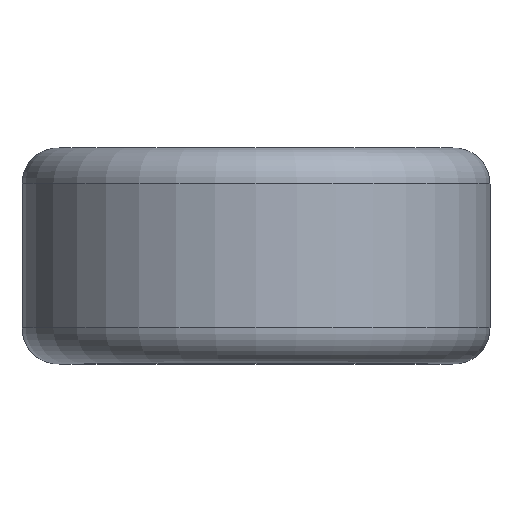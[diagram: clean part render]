
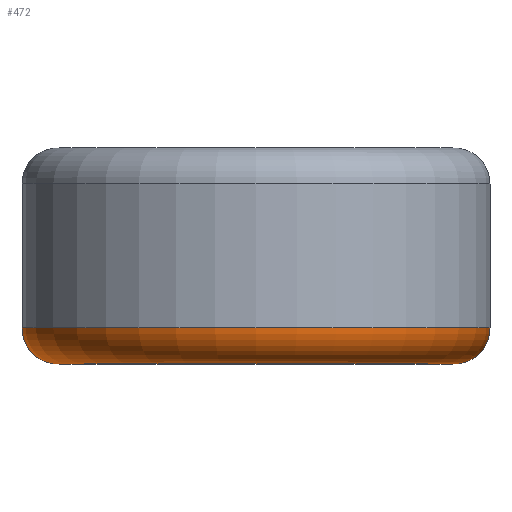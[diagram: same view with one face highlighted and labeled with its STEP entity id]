
A CAD part, top view. The second image highlights one B-rep face of the part: STEP entity #472.
In plain terms, the highlighted toroidal (fillet/blend) face has major radius 5.5 mm and minor radius 1 mm.
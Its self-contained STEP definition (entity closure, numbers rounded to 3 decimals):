
#81=FACE_OUTER_BOUND('',#112,.T.);
#112=EDGE_LOOP('',(#401,#402,#403,#404,#405,#406,#407));
#137=CIRCLE('',#527,6.5);
#138=CIRCLE('',#528,6.5);
#139=CIRCLE('',#529,6.5);
#146=CIRCLE('',#538,5.5);
#147=CIRCLE('',#539,1.);
#148=CIRCLE('',#540,5.5);
#210=VERTEX_POINT('',#1533);
#211=VERTEX_POINT('',#1534);
#212=VERTEX_POINT('',#1536);
#225=VERTEX_POINT('',#2400);
#226=VERTEX_POINT('',#2401);
#268=EDGE_CURVE('',#210,#211,#137,.T.);
#269=EDGE_CURVE('',#212,#210,#138,.T.);
#270=EDGE_CURVE('',#211,#212,#139,.T.);
#288=EDGE_CURVE('',#225,#226,#146,.T.);
#289=EDGE_CURVE('',#226,#212,#147,.T.);
#290=EDGE_CURVE('',#226,#225,#148,.T.);
#401=ORIENTED_EDGE('',*,*,#288,.T.);
#402=ORIENTED_EDGE('',*,*,#289,.T.);
#403=ORIENTED_EDGE('',*,*,#269,.T.);
#404=ORIENTED_EDGE('',*,*,#268,.T.);
#405=ORIENTED_EDGE('',*,*,#270,.T.);
#406=ORIENTED_EDGE('',*,*,#289,.F.);
#407=ORIENTED_EDGE('',*,*,#290,.T.);
#452=TOROIDAL_SURFACE('',#537,5.5,1.);
#472=ADVANCED_FACE('',(#81),#452,.T.);
#527=AXIS2_PLACEMENT_3D('',#1535,#618,#619);
#528=AXIS2_PLACEMENT_3D('',#1537,#620,#621);
#529=AXIS2_PLACEMENT_3D('',#1538,#622,#623);
#537=AXIS2_PLACEMENT_3D('',#2399,#639,#640);
#538=AXIS2_PLACEMENT_3D('',#2402,#641,#642);
#539=AXIS2_PLACEMENT_3D('',#2403,#643,#644);
#540=AXIS2_PLACEMENT_3D('',#2404,#645,#646);
#618=DIRECTION('center_axis',(0.,-1.,0.));
#619=DIRECTION('ref_axis',(-1.,0.,0.));
#620=DIRECTION('center_axis',(0.,-1.,0.));
#621=DIRECTION('ref_axis',(-1.,0.,0.));
#622=DIRECTION('center_axis',(0.,-1.,0.));
#623=DIRECTION('ref_axis',(-1.,0.,0.));
#639=DIRECTION('center_axis',(0.,-1.,0.));
#640=DIRECTION('ref_axis',(0.,0.,1.));
#641=DIRECTION('center_axis',(0.,1.,0.));
#642=DIRECTION('ref_axis',(-1.,0.,0.));
#643=DIRECTION('center_axis',(1.,0.,0.));
#644=DIRECTION('ref_axis',(0.,0.,-1.));
#645=DIRECTION('center_axis',(0.,1.,0.));
#646=DIRECTION('ref_axis',(-1.,0.,0.));
#1533=CARTESIAN_POINT('',(6.5,-2.,0.));
#1534=CARTESIAN_POINT('',(-6.5,-2.,0.));
#1535=CARTESIAN_POINT('Origin',(0.,-2.,0.));
#1536=CARTESIAN_POINT('',(0.,-2.,-6.5));
#1537=CARTESIAN_POINT('Origin',(0.,-2.,0.));
#1538=CARTESIAN_POINT('Origin',(0.,-2.,0.));
#2399=CARTESIAN_POINT('Origin',(0.,-2.,0.));
#2400=CARTESIAN_POINT('',(5.5,-3.,0.));
#2401=CARTESIAN_POINT('',(0.,-3.,-5.5));
#2402=CARTESIAN_POINT('Origin',(0.,-3.,0.));
#2403=CARTESIAN_POINT('Origin',(0.,-2.,-5.5));
#2404=CARTESIAN_POINT('Origin',(0.,-3.,0.));
